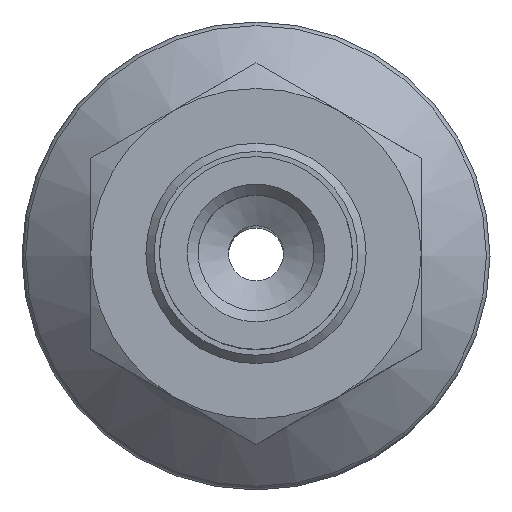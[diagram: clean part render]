
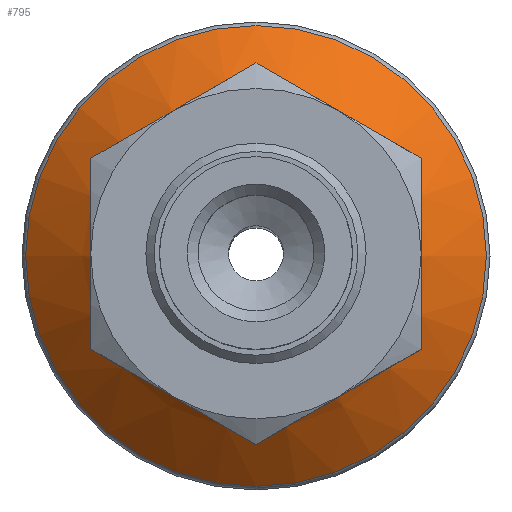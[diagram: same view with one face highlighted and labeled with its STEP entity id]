
A CAD part, top view. The second image highlights one B-rep face of the part: STEP entity #795.
In plain terms, the highlighted conical face has half-angle 48 degrees and reference radius 8.677 mm.
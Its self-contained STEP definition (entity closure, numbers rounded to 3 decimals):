
#795=ADVANCED_FACE('',(#1145,#1146),#1147,.T.);
#1145=FACE_BOUND('',#2539,.T.);
#1146=FACE_OUTER_BOUND('',#2540,.T.);
#1147=CONICAL_SURFACE('',#2541,8.677,0.838);
#2539=EDGE_LOOP('',(#3439));
#2540=EDGE_LOOP('',(#3440));
#2541=AXIS2_PLACEMENT_3D('',#3441,#3442,#3443);
#3439=ORIENTED_EDGE('',*,*,#3768,.T.);
#3440=ORIENTED_EDGE('',*,*,#3766,.T.);
#3441=CARTESIAN_POINT('',(0.0,0.0,6.016));
#3442=DIRECTION('',(0.0,0.,-1.0));
#3443=DIRECTION('',(0.0,1.0,0.));
#3766=EDGE_CURVE('',#4181,#4181,#4182,.T.);
#3768=EDGE_CURVE('',#4185,#4185,#4186,.T.);
#4181=VERTEX_POINT('',#5062);
#4182=CIRCLE('',#5063,8.366);
#4185=VERTEX_POINT('',#5066);
#4186=CIRCLE('',#5067,4.25);
#5062=CARTESIAN_POINT('',(0.0,-8.366,6.296));
#5063=AXIS2_PLACEMENT_3D('',#5447,#5448,#5449);
#5066=CARTESIAN_POINT('',(-4.25,0.0,10.002));
#5067=AXIS2_PLACEMENT_3D('',#5453,#5454,#5455);
#5447=CARTESIAN_POINT('',(0.0,0.0,6.296));
#5448=DIRECTION('',(0.0,0.,1.0));
#5449=DIRECTION('',(0.0,-1.0,0.));
#5453=CARTESIAN_POINT('',(0.0,0.0,10.002));
#5454=DIRECTION('',(0.0,0.,-1.0));
#5455=DIRECTION('',(0.0,1.0,0.));
